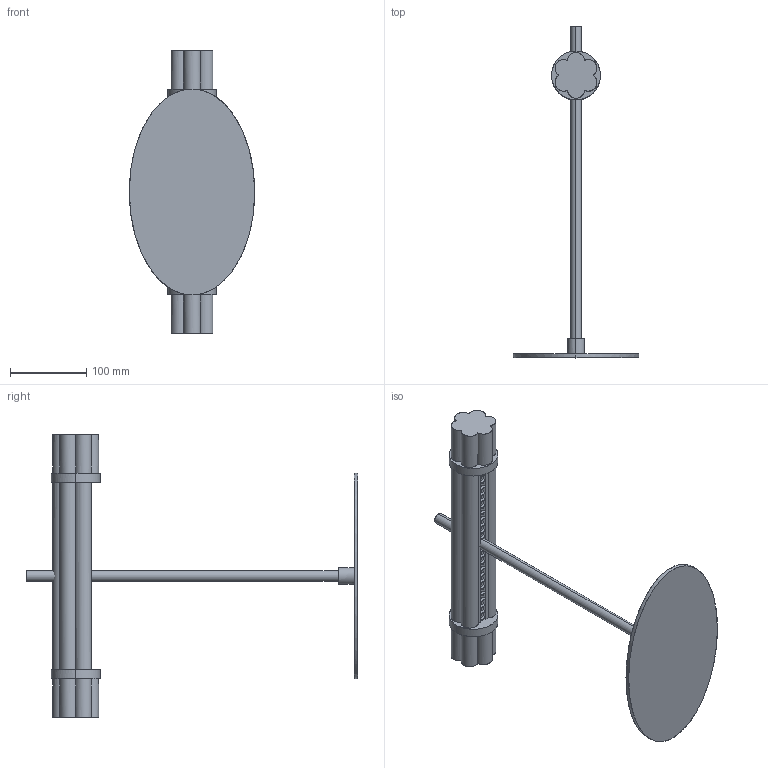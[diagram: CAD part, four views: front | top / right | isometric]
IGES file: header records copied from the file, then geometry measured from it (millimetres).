
Start section: SolidWorks IGES file using analytic representation for surfaces
Global section: file name: C:\Users\adrian\Desktop\Nueva Colección Enero 2026\3D\drive-download-20251230T145340Z-1-001\TASTA\TASTA Sobremesa.IGS; native system: SolidWorks 2023; preprocessor: SolidWorks 2023; author: adrian; date: 251230.170647; units: millimetre
Bounding box: 164.43 x 435 x 370 mm (x, y, z)
Surface area: 200749.1 mm2 (no closed solid volume)
Topology: 0 solids, 0 shells, 185 faces, 1546 edges, 1546 vertices
Faces by surface type: bspline 154, revolution 31
